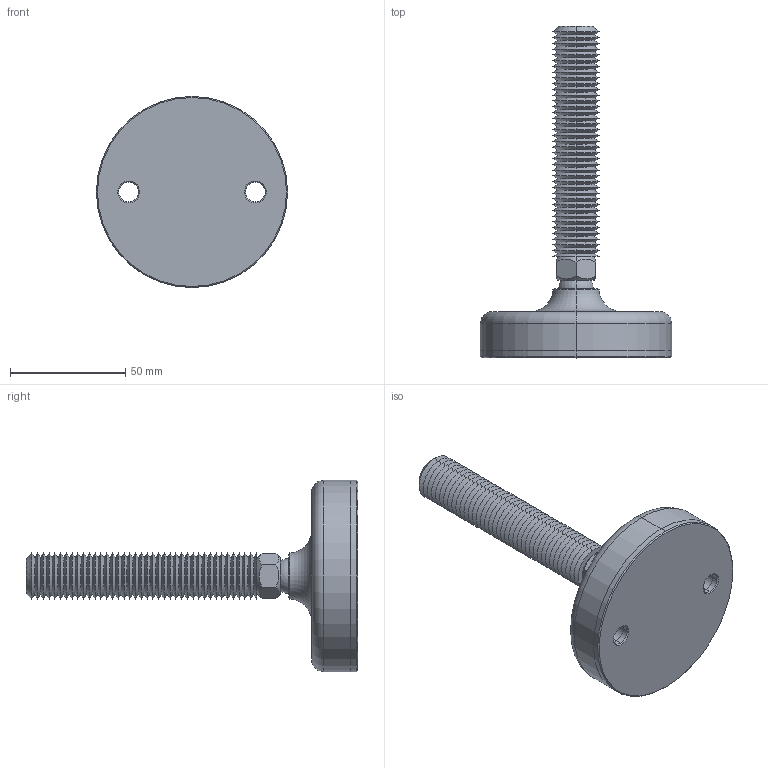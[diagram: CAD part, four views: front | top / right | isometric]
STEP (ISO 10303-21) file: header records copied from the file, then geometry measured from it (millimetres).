
FILE_DESCRIPTION (( 'STEP AP203' ), '1' );
FILE_NAME ('34724.W2001.step', '2019-11-28T22:15:45', ( '' ), ( '' ), 'SwSTEP 2.0', 'SolidWorks 2017', '' );
FILE_SCHEMA (( 'CONFIG_CONTROL_DESIGN' ));
Length unit declared in the file: millimetre
Products named in the file (4): 34724.W2001; Part3_34724.W2001; Part1_34724.W2001; Part2_34724.W2001
Assembly tree (3 placements, depth 2):
  34724.W2001
    Part1_34724.W2001
    Part2_34724.W2001
    Part3_34724.W2001
Bounding box: 83 x 144 x 83 mm (x, y, z)
Volume: 137477.2 mm3; surface area: 40031.9 mm2
Topology: 3 solids, 3 shells, 208 faces, 431 edges, 229 vertices
Faces by surface type: cone 174, plane 14, cylinder 12, sphere 4, torus 4
Entity records: 5862 total; most frequent: DIRECTION 1056, CARTESIAN_POINT 1008, ORIENTED_EDGE 844, AXIS2_PLACEMENT_3D 432, EDGE_CURVE 422, VERTEX_POINT 224, EDGE_LOOP 220, CIRCLE 218
